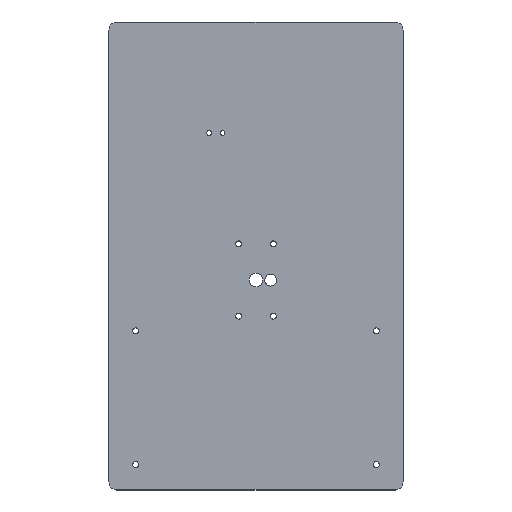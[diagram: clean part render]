
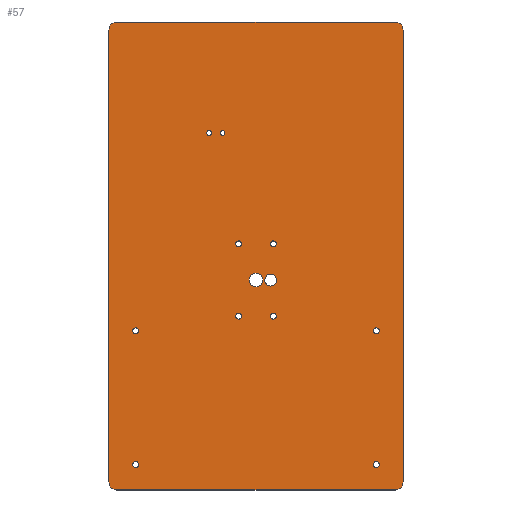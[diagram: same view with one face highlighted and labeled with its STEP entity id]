
A CAD part, top view. The second image highlights one B-rep face of the part: STEP entity #57.
In plain terms, the highlighted planar face has unit normal (0, 0, 1).
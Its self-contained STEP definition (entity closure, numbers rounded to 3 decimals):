
#21 = EDGE_CURVE('',#22,#24,#26,.T.);
#22 = VERTEX_POINT('',#23);
#23 = CARTESIAN_POINT('',(-110.,-169.,16.));
#24 = VERTEX_POINT('',#25);
#25 = CARTESIAN_POINT('',(-110.,169.,16.));
#26 = LINE('',#27,#28);
#27 = CARTESIAN_POINT('',(-110.,-175.,16.));
#28 = VECTOR('',#29,1.);
#29 = DIRECTION('',(0.,1.,0.));
#57 = ADVANCED_FACE('',(#58,#119,#130,#141,#152,#163,#174,#185,#196,#207
    ,#218,#229,#240),#251,.T.);
#58 = FACE_BOUND('',#59,.T.);
#59 = EDGE_LOOP('',(#60,#61,#70,#78,#87,#95,#104,#112));
#60 = ORIENTED_EDGE('',*,*,#21,.F.);
#61 = ORIENTED_EDGE('',*,*,#62,.T.);
#62 = EDGE_CURVE('',#22,#63,#65,.T.);
#63 = VERTEX_POINT('',#64);
#64 = CARTESIAN_POINT('',(-104.,-175.,16.));
#65 = CIRCLE('',#66,6.);
#66 = AXIS2_PLACEMENT_3D('',#67,#68,#69);
#67 = CARTESIAN_POINT('',(-104.,-169.,16.));
#68 = DIRECTION('',(-0.,0.,1.));
#69 = DIRECTION('',(0.,-1.,0.));
#70 = ORIENTED_EDGE('',*,*,#71,.T.);
#71 = EDGE_CURVE('',#63,#72,#74,.T.);
#72 = VERTEX_POINT('',#73);
#73 = CARTESIAN_POINT('',(104.,-175.,16.));
#74 = LINE('',#75,#76);
#75 = CARTESIAN_POINT('',(-110.,-175.,16.));
#76 = VECTOR('',#77,1.);
#77 = DIRECTION('',(1.,0.,0.));
#78 = ORIENTED_EDGE('',*,*,#79,.F.);
#79 = EDGE_CURVE('',#80,#72,#82,.T.);
#80 = VERTEX_POINT('',#81);
#81 = CARTESIAN_POINT('',(110.,-169.,16.));
#82 = CIRCLE('',#83,6.);
#83 = AXIS2_PLACEMENT_3D('',#84,#85,#86);
#84 = CARTESIAN_POINT('',(104.,-169.,16.));
#85 = DIRECTION('',(-0.,-0.,-1.));
#86 = DIRECTION('',(0.,-1.,0.));
#87 = ORIENTED_EDGE('',*,*,#88,.T.);
#88 = EDGE_CURVE('',#80,#89,#91,.T.);
#89 = VERTEX_POINT('',#90);
#90 = CARTESIAN_POINT('',(110.,169.,16.));
#91 = LINE('',#92,#93);
#92 = CARTESIAN_POINT('',(110.,-175.,16.));
#93 = VECTOR('',#94,1.);
#94 = DIRECTION('',(0.,1.,0.));
#95 = ORIENTED_EDGE('',*,*,#96,.T.);
#96 = EDGE_CURVE('',#89,#97,#99,.T.);
#97 = VERTEX_POINT('',#98);
#98 = CARTESIAN_POINT('',(104.,175.,16.));
#99 = CIRCLE('',#100,6.);
#100 = AXIS2_PLACEMENT_3D('',#101,#102,#103);
#101 = CARTESIAN_POINT('',(104.,169.,16.));
#102 = DIRECTION('',(-0.,0.,1.));
#103 = DIRECTION('',(0.,-1.,0.));
#104 = ORIENTED_EDGE('',*,*,#105,.F.);
#105 = EDGE_CURVE('',#106,#97,#108,.T.);
#106 = VERTEX_POINT('',#107);
#107 = CARTESIAN_POINT('',(-104.,175.,16.));
#108 = LINE('',#109,#110);
#109 = CARTESIAN_POINT('',(-110.,175.,16.));
#110 = VECTOR('',#111,1.);
#111 = DIRECTION('',(1.,0.,0.));
#112 = ORIENTED_EDGE('',*,*,#113,.F.);
#113 = EDGE_CURVE('',#24,#106,#114,.T.);
#114 = CIRCLE('',#115,6.);
#115 = AXIS2_PLACEMENT_3D('',#116,#117,#118);
#116 = CARTESIAN_POINT('',(-104.,169.,16.));
#117 = DIRECTION('',(-0.,-0.,-1.));
#118 = DIRECTION('',(0.,-1.,0.));
#119 = FACE_BOUND('',#120,.T.);
#120 = EDGE_LOOP('',(#121));
#121 = ORIENTED_EDGE('',*,*,#122,.F.);
#122 = EDGE_CURVE('',#123,#123,#125,.T.);
#123 = VERTEX_POINT('',#124);
#124 = CARTESIAN_POINT('',(-87.75,-156.,16.));
#125 = CIRCLE('',#126,2.25);
#126 = AXIS2_PLACEMENT_3D('',#127,#128,#129);
#127 = CARTESIAN_POINT('',(-90.,-156.,16.));
#128 = DIRECTION('',(0.,0.,1.));
#129 = DIRECTION('',(1.,0.,0.));
#130 = FACE_BOUND('',#131,.T.);
#131 = EDGE_LOOP('',(#132));
#132 = ORIENTED_EDGE('',*,*,#133,.F.);
#133 = EDGE_CURVE('',#134,#134,#136,.T.);
#134 = VERTEX_POINT('',#135);
#135 = CARTESIAN_POINT('',(-87.75,-56.,16.));
#136 = CIRCLE('',#137,2.25);
#137 = AXIS2_PLACEMENT_3D('',#138,#139,#140);
#138 = CARTESIAN_POINT('',(-90.,-56.,16.));
#139 = DIRECTION('',(0.,0.,1.));
#140 = DIRECTION('',(1.,0.,0.));
#141 = FACE_BOUND('',#142,.T.);
#142 = EDGE_LOOP('',(#143));
#143 = ORIENTED_EDGE('',*,*,#144,.F.);
#144 = EDGE_CURVE('',#145,#145,#147,.T.);
#145 = VERTEX_POINT('',#146);
#146 = CARTESIAN_POINT('',(-10.75,-45.,16.));
#147 = CIRCLE('',#148,2.25);
#148 = AXIS2_PLACEMENT_3D('',#149,#150,#151);
#149 = CARTESIAN_POINT('',(-13.,-45.,16.));
#150 = DIRECTION('',(0.,0.,1.));
#151 = DIRECTION('',(1.,0.,0.));
#152 = FACE_BOUND('',#153,.T.);
#153 = EDGE_LOOP('',(#154));
#154 = ORIENTED_EDGE('',*,*,#155,.F.);
#155 = EDGE_CURVE('',#156,#156,#158,.T.);
#156 = VERTEX_POINT('',#157);
#157 = CARTESIAN_POINT('',(92.25,-156.,16.));
#158 = CIRCLE('',#159,2.25);
#159 = AXIS2_PLACEMENT_3D('',#160,#161,#162);
#160 = CARTESIAN_POINT('',(90.,-156.,16.));
#161 = DIRECTION('',(0.,0.,1.));
#162 = DIRECTION('',(1.,0.,0.));
#163 = FACE_BOUND('',#164,.T.);
#164 = EDGE_LOOP('',(#165));
#165 = ORIENTED_EDGE('',*,*,#166,.F.);
#166 = EDGE_CURVE('',#167,#167,#169,.T.);
#167 = VERTEX_POINT('',#168);
#168 = CARTESIAN_POINT('',(15.25,-45.,16.));
#169 = CIRCLE('',#170,2.25);
#170 = AXIS2_PLACEMENT_3D('',#171,#172,#173);
#171 = CARTESIAN_POINT('',(13.,-45.,16.));
#172 = DIRECTION('',(0.,0.,1.));
#173 = DIRECTION('',(1.,0.,0.));
#174 = FACE_BOUND('',#175,.T.);
#175 = EDGE_LOOP('',(#176));
#176 = ORIENTED_EDGE('',*,*,#177,.F.);
#177 = EDGE_CURVE('',#178,#178,#180,.T.);
#178 = VERTEX_POINT('',#179);
#179 = CARTESIAN_POINT('',(92.25,-56.,16.));
#180 = CIRCLE('',#181,2.25);
#181 = AXIS2_PLACEMENT_3D('',#182,#183,#184);
#182 = CARTESIAN_POINT('',(90.,-56.,16.));
#183 = DIRECTION('',(0.,0.,1.));
#184 = DIRECTION('',(1.,0.,0.));
#185 = FACE_BOUND('',#186,.T.);
#186 = EDGE_LOOP('',(#187));
#187 = ORIENTED_EDGE('',*,*,#188,.F.);
#188 = EDGE_CURVE('',#189,#189,#191,.T.);
#189 = VERTEX_POINT('',#190);
#190 = CARTESIAN_POINT('',(-10.75,9.,16.));
#191 = CIRCLE('',#192,2.25);
#192 = AXIS2_PLACEMENT_3D('',#193,#194,#195);
#193 = CARTESIAN_POINT('',(-13.,9.,16.));
#194 = DIRECTION('',(0.,0.,1.));
#195 = DIRECTION('',(1.,0.,0.));
#196 = FACE_BOUND('',#197,.T.);
#197 = EDGE_LOOP('',(#198));
#198 = ORIENTED_EDGE('',*,*,#199,.F.);
#199 = EDGE_CURVE('',#200,#200,#202,.T.);
#200 = VERTEX_POINT('',#201);
#201 = CARTESIAN_POINT('',(-33.2,92.,16.));
#202 = CIRCLE('',#203,1.8);
#203 = AXIS2_PLACEMENT_3D('',#204,#205,#206);
#204 = CARTESIAN_POINT('',(-35.,92.,16.));
#205 = DIRECTION('',(0.,0.,1.));
#206 = DIRECTION('',(1.,0.,0.));
#207 = FACE_BOUND('',#208,.T.);
#208 = EDGE_LOOP('',(#209));
#209 = ORIENTED_EDGE('',*,*,#210,.F.);
#210 = EDGE_CURVE('',#211,#211,#213,.T.);
#211 = VERTEX_POINT('',#212);
#212 = CARTESIAN_POINT('',(-23.2,92.,16.));
#213 = CIRCLE('',#214,1.8);
#214 = AXIS2_PLACEMENT_3D('',#215,#216,#217);
#215 = CARTESIAN_POINT('',(-25.,92.,16.));
#216 = DIRECTION('',(0.,0.,1.));
#217 = DIRECTION('',(1.,0.,0.));
#218 = FACE_BOUND('',#219,.T.);
#219 = EDGE_LOOP('',(#220));
#220 = ORIENTED_EDGE('',*,*,#221,.F.);
#221 = EDGE_CURVE('',#222,#222,#224,.T.);
#222 = VERTEX_POINT('',#223);
#223 = CARTESIAN_POINT('',(5.,-18.,16.));
#224 = CIRCLE('',#225,5.);
#225 = AXIS2_PLACEMENT_3D('',#226,#227,#228);
#226 = CARTESIAN_POINT('',(0.,-18.,16.));
#227 = DIRECTION('',(0.,0.,1.));
#228 = DIRECTION('',(1.,0.,0.));
#229 = FACE_BOUND('',#230,.T.);
#230 = EDGE_LOOP('',(#231));
#231 = ORIENTED_EDGE('',*,*,#232,.F.);
#232 = EDGE_CURVE('',#233,#233,#235,.T.);
#233 = VERTEX_POINT('',#234);
#234 = CARTESIAN_POINT('',(15.5,-18.,16.));
#235 = CIRCLE('',#236,4.5);
#236 = AXIS2_PLACEMENT_3D('',#237,#238,#239);
#237 = CARTESIAN_POINT('',(11.,-18.,16.));
#238 = DIRECTION('',(0.,0.,1.));
#239 = DIRECTION('',(1.,0.,0.));
#240 = FACE_BOUND('',#241,.T.);
#241 = EDGE_LOOP('',(#242));
#242 = ORIENTED_EDGE('',*,*,#243,.F.);
#243 = EDGE_CURVE('',#244,#244,#246,.T.);
#244 = VERTEX_POINT('',#245);
#245 = CARTESIAN_POINT('',(15.25,9.,16.));
#246 = CIRCLE('',#247,2.25);
#247 = AXIS2_PLACEMENT_3D('',#248,#249,#250);
#248 = CARTESIAN_POINT('',(13.,9.,16.));
#249 = DIRECTION('',(0.,0.,1.));
#250 = DIRECTION('',(1.,0.,0.));
#251 = PLANE('',#252);
#252 = AXIS2_PLACEMENT_3D('',#253,#254,#255);
#253 = CARTESIAN_POINT('',(-110.,-175.,16.));
#254 = DIRECTION('',(0.,0.,1.));
#255 = DIRECTION('',(1.,0.,0.));
